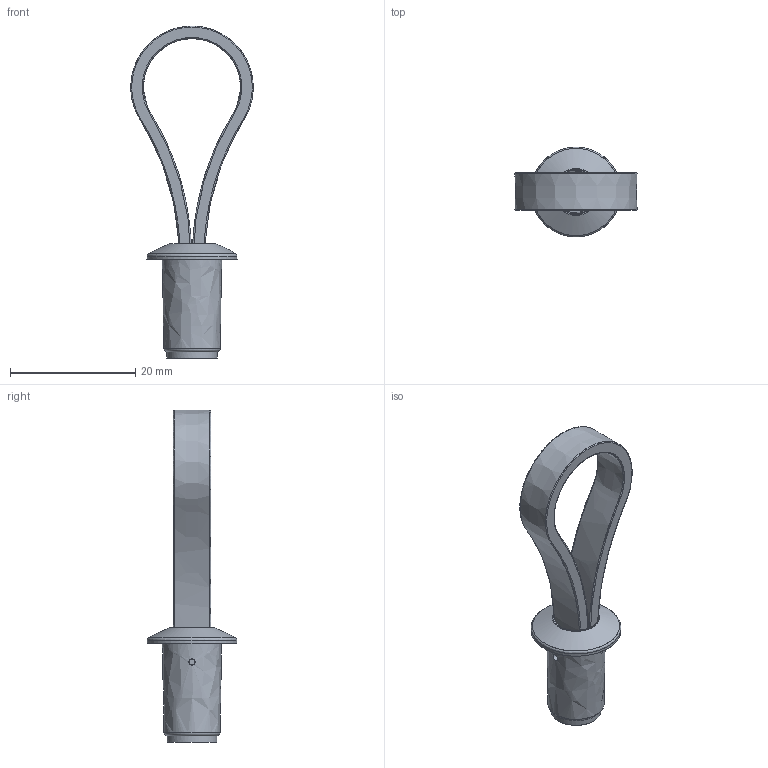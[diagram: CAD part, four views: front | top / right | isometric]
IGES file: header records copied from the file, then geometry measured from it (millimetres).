
Start section: C
Global section: file name: 8301.igs; native system: By Siemens PLM Incorporated; preprocessor: XPlus GENERIC/IGES 16.0.42; author: Author; organization: Title; date: 20210505.110312; units: millimetre
Bounding box: 19.55 x 14.35 x 53.1 mm (x, y, z)
Surface area: 2680.2 mm2 (no closed solid volume)
Topology: 0 solids, 0 shells, 28 faces, 442 edges, 442 vertices
Faces by surface type: bspline 28
